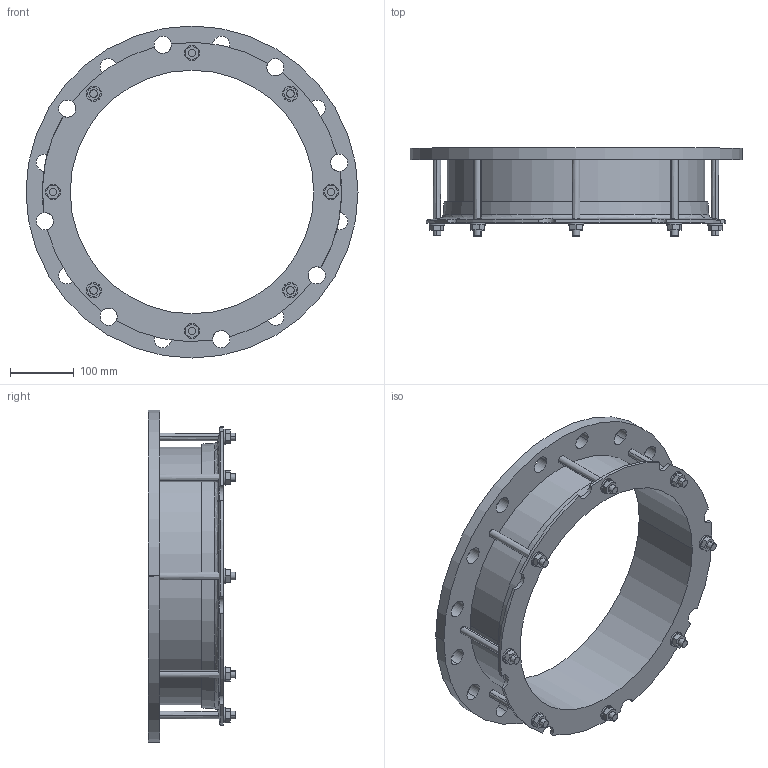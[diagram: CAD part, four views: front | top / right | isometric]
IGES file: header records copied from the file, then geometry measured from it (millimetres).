
Start section:  PTC IGES file: 378x350pn16_8not.igs
Global section: file name: 378x350pn16_8not.igs; native system: Creo Parametric by PTC Inc.; preprocessor: 2016130; author: mfairey; organization: Unknown; date: 20190116.095742; units: millimetre
Bounding box: 520 x 137.45 x 520 mm (x, y, z)
Surface area: 612863.1 mm2 (no closed solid volume)
Topology: 0 solids, 0 shells, 184 faces, 980 edges, 980 vertices
Faces by surface type: revolution 108, bspline 76
